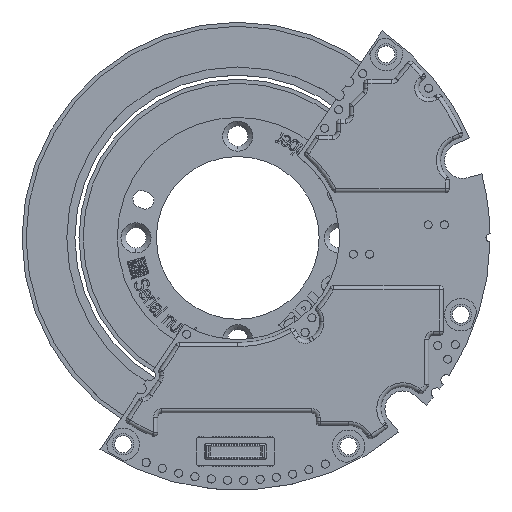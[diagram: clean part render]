
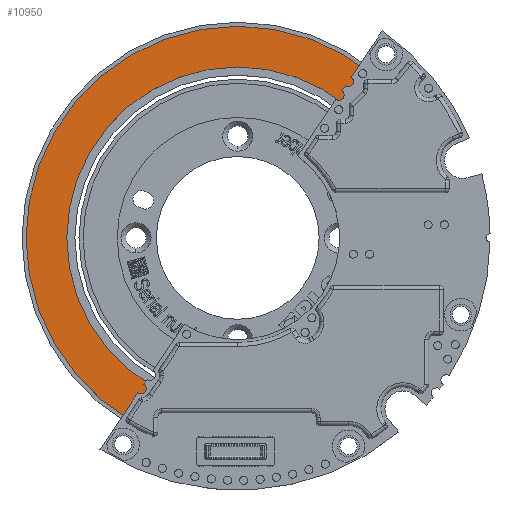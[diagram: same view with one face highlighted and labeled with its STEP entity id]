
A CAD part, top view. The second image highlights one B-rep face of the part: STEP entity #10950.
In plain terms, the highlighted planar face has unit normal (0, 0, 1).
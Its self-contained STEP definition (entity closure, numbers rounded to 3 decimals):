
#289 = CIRCLE ( 'NONE', #114104, 21. ) ;
#2479 = ORIENTED_EDGE ( 'NONE', *, *, #30376, .T. ) ;
#9627 = DIRECTION ( 'NONE',  ( 0., -1., 0. ) ) ;
#10577 = EDGE_CURVE ( 'NONE', #61827, #112938, #64468, .T. ) ;
#10730 = VERTEX_POINT ( 'NONE', #38033 ) ;
#10950 = ADVANCED_FACE ( 'NONE', ( #74237, #82885 ), #103948, .T. ) ;
#13208 = CARTESIAN_POINT ( 'NONE',  ( 0., -21., -2.45 ) ) ;
#16824 = DIRECTION ( 'NONE',  ( 0., -1., 0. ) ) ;
#22725 = DIRECTION ( 'NONE',  ( 0., 0., 1. ) ) ;
#26549 = EDGE_LOOP ( 'NONE', ( #47643, #2479 ) ) ;
#26718 = CARTESIAN_POINT ( 'NONE',  ( 0., 0., -2.45 ) ) ;
#30376 = EDGE_CURVE ( 'NONE', #107074, #10730, #35373, .T. ) ;
#32983 = AXIS2_PLACEMENT_3D ( 'NONE', #53067, #22725, #62388 ) ;
#35373 = CIRCLE ( 'NONE', #58535, 26. ) ;
#38033 = CARTESIAN_POINT ( 'NONE',  ( 0., 26., -2.45 ) ) ;
#46779 = EDGE_CURVE ( 'NONE', #112938, #61827, #289, .T. ) ;
#46792 = EDGE_LOOP ( 'NONE', ( #124592, #108528 ) ) ;
#47218 = DIRECTION ( 'NONE',  ( 0., 0., 1. ) ) ;
#47398 = DIRECTION ( 'NONE',  ( 0., 0., 1. ) ) ;
#47643 = ORIENTED_EDGE ( 'NONE', *, *, #106744, .T. ) ;
#53067 = CARTESIAN_POINT ( 'NONE',  ( 0., 0., -2.45 ) ) ;
#53616 = CARTESIAN_POINT ( 'NONE',  ( 0., 21., -2.45 ) ) ;
#58535 = AXIS2_PLACEMENT_3D ( 'NONE', #91456, #59742, #9627 ) ;
#59742 = DIRECTION ( 'NONE',  ( 0., 0., 1. ) ) ;
#61827 = VERTEX_POINT ( 'NONE', #53616 ) ;
#62388 = DIRECTION ( 'NONE',  ( 0., -1., 0. ) ) ;
#64468 = CIRCLE ( 'NONE', #106746, 21. ) ;
#73102 = DIRECTION ( 'NONE',  ( 0., -1., 0. ) ) ;
#74237 = FACE_OUTER_BOUND ( 'NONE', #26549, .T. ) ;
#80746 = AXIS2_PLACEMENT_3D ( 'NONE', #127866, #47398, #88988 ) ;
#82885 = FACE_BOUND ( 'NONE', #46792, .T. ) ;
#82952 = CIRCLE ( 'NONE', #80746, 26. ) ;
#84044 = CARTESIAN_POINT ( 'NONE',  ( 0., -26., -2.45 ) ) ;
#88988 = DIRECTION ( 'NONE',  ( 0., -1., 0. ) ) ;
#91456 = CARTESIAN_POINT ( 'NONE',  ( 0., 0., -2.45 ) ) ;
#103948 = PLANE ( 'NONE',  #32983 ) ;
#104769 = CARTESIAN_POINT ( 'NONE',  ( 0., 0., -2.45 ) ) ;
#106744 = EDGE_CURVE ( 'NONE', #10730, #107074, #82952, .T. ) ;
#106746 = AXIS2_PLACEMENT_3D ( 'NONE', #104769, #123854, #73102 ) ;
#107074 = VERTEX_POINT ( 'NONE', #84044 ) ;
#108528 = ORIENTED_EDGE ( 'NONE', *, *, #46779, .F. ) ;
#112938 = VERTEX_POINT ( 'NONE', #13208 ) ;
#114104 = AXIS2_PLACEMENT_3D ( 'NONE', #26718, #47218, #16824 ) ;
#123854 = DIRECTION ( 'NONE',  ( 0., 0., 1. ) ) ;
#124592 = ORIENTED_EDGE ( 'NONE', *, *, #10577, .F. ) ;
#127866 = CARTESIAN_POINT ( 'NONE',  ( 0., 0., -2.45 ) ) ;
